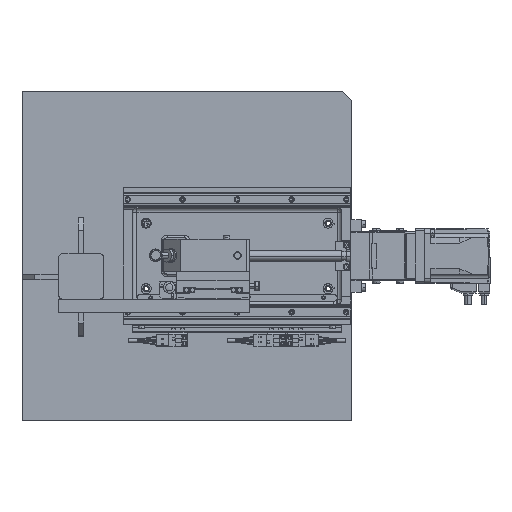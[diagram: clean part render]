
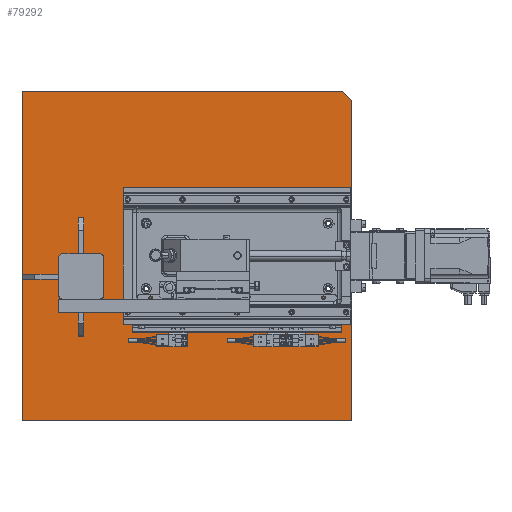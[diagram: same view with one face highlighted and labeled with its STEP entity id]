
A CAD part, top view. The second image highlights one B-rep face of the part: STEP entity #79292.
In plain terms, the highlighted planar face has unit normal (0, 0, 1).
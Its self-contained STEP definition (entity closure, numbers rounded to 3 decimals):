
#87 = CARTESIAN_POINT ( 'NONE',  ( 153., 36., 50. ) ) ;
#344 = LINE ( 'NONE', #31147, #68379 ) ;
#2379 = DIRECTION ( 'NONE',  ( 0., -1., 0. ) ) ;
#2477 = DIRECTION ( 'NONE',  ( 1., 0., 0. ) ) ;
#3659 = CARTESIAN_POINT ( 'NONE',  ( -42., 36., 50. ) ) ;
#5085 = CARTESIAN_POINT ( 'NONE',  ( 155.5, -36., 50. ) ) ;
#5263 = VERTEX_POINT ( 'NONE', #21585 ) ;
#6555 = PLANE ( 'NONE',  #29646 ) ;
#7106 = CARTESIAN_POINT ( 'NONE',  ( 181., -181., 50. ) ) ;
#7363 = EDGE_LOOP ( 'NONE', ( #77438, #64090 ) ) ;
#7503 = VERTEX_POINT ( 'NONE', #3659 ) ;
#7980 = CIRCLE ( 'NONE', #42188, 2.5 ) ;
#8345 = ORIENTED_EDGE ( 'NONE', *, *, #17273, .T. ) ;
#9100 = CARTESIAN_POINT ( 'NONE',  ( -181., -181., 50. ) ) ;
#9322 = CARTESIAN_POINT ( 'NONE',  ( -181., -181., 50. ) ) ;
#9435 = ORIENTED_EDGE ( 'NONE', *, *, #45538, .F. ) ;
#10308 = VERTEX_POINT ( 'NONE', #87 ) ;
#11711 = ORIENTED_EDGE ( 'NONE', *, *, #65922, .T. ) ;
#12072 = EDGE_LOOP ( 'NONE', ( #78706, #56577 ) ) ;
#12260 = VERTEX_POINT ( 'NONE', #50027 ) ;
#13776 = VERTEX_POINT ( 'NONE', #34386 ) ;
#14571 = CARTESIAN_POINT ( 'NONE',  ( 153., -36., 50. ) ) ;
#15999 = VECTOR ( 'NONE', #16908, 1000. ) ;
#16003 = EDGE_LOOP ( 'NONE', ( #83662, #8345, #40900, #11711, #40294 ) ) ;
#16629 = LINE ( 'NONE', #67836, #31009 ) ;
#16785 = AXIS2_PLACEMENT_3D ( 'NONE', #46141, #21062, #33493 ) ;
#16908 = DIRECTION ( 'NONE',  ( 0.707, -0.707, 0. ) ) ;
#17273 = EDGE_CURVE ( 'NONE', #30736, #13776, #23882, .T. ) ;
#17995 = VERTEX_POINT ( 'NONE', #7106 ) ;
#18333 = CIRCLE ( 'NONE', #54836, 2.5 ) ;
#18795 = VERTEX_POINT ( 'NONE', #75558 ) ;
#19387 = LINE ( 'NONE', #9322, #62487 ) ;
#20315 = DIRECTION ( 'NONE',  ( 1., 0., 0. ) ) ;
#20596 = DIRECTION ( 'NONE',  ( 0., 0., 1. ) ) ;
#21062 = DIRECTION ( 'NONE',  ( 0., 0., 1. ) ) ;
#21585 = CARTESIAN_POINT ( 'NONE',  ( -42., -36., 50. ) ) ;
#22696 = EDGE_CURVE ( 'NONE', #30736, #64013, #36564, .T. ) ;
#22791 = CIRCLE ( 'NONE', #16785, 2.5 ) ;
#23051 = VERTEX_POINT ( 'NONE', #14571 ) ;
#23882 = LINE ( 'NONE', #38888, #73386 ) ;
#24942 = DIRECTION ( 'NONE',  ( 0., 0., 1. ) ) ;
#25138 = ORIENTED_EDGE ( 'NONE', *, *, #62455, .F. ) ;
#25661 = DIRECTION ( 'NONE',  ( 1., 0., 0. ) ) ;
#26359 = CARTESIAN_POINT ( 'NONE',  ( 155.5, -36., 50. ) ) ;
#26686 = CARTESIAN_POINT ( 'NONE',  ( 0., 0., 50. ) ) ;
#28505 = CARTESIAN_POINT ( 'NONE',  ( 181., 171., 50. ) ) ;
#29640 = FACE_BOUND ( 'NONE', #55484, .T. ) ;
#29646 = AXIS2_PLACEMENT_3D ( 'NONE', #26686, #20596, #20315 ) ;
#29738 = FACE_OUTER_BOUND ( 'NONE', #16003, .T. ) ;
#30736 = VERTEX_POINT ( 'NONE', #84183 ) ;
#31009 = VECTOR ( 'NONE', #34969, 1000. ) ;
#31147 = CARTESIAN_POINT ( 'NONE',  ( 181., -181., 50. ) ) ;
#31344 = VERTEX_POINT ( 'NONE', #78005 ) ;
#31550 = EDGE_CURVE ( 'NONE', #17995, #64013, #16629, .T. ) ;
#31821 = EDGE_CURVE ( 'NONE', #31344, #23051, #70218, .T. ) ;
#32988 = DIRECTION ( 'NONE',  ( 0., 0., 1. ) ) ;
#33172 = DIRECTION ( 'NONE',  ( 0., 0., 1. ) ) ;
#33493 = DIRECTION ( 'NONE',  ( 1., 0., 0. ) ) ;
#34386 = CARTESIAN_POINT ( 'NONE',  ( -181., 181., 50. ) ) ;
#34844 = CIRCLE ( 'NONE', #65895, 2.5 ) ;
#34969 = DIRECTION ( 'NONE',  ( 0., 1., 0. ) ) ;
#35672 = CARTESIAN_POINT ( 'NONE',  ( 171., 181., 50. ) ) ;
#36071 = DIRECTION ( 'NONE',  ( 0., 0., 1. ) ) ;
#36122 = ORIENTED_EDGE ( 'NONE', *, *, #44476, .F. ) ;
#36564 = LINE ( 'NONE', #35672, #15999 ) ;
#38888 = CARTESIAN_POINT ( 'NONE',  ( -181., 181., 50. ) ) ;
#40294 = ORIENTED_EDGE ( 'NONE', *, *, #31550, .T. ) ;
#40900 = ORIENTED_EDGE ( 'NONE', *, *, #42862, .T. ) ;
#41099 = CARTESIAN_POINT ( 'NONE',  ( -44.5, 36., 50. ) ) ;
#41895 = DIRECTION ( 'NONE',  ( 0., 0., 1. ) ) ;
#42170 = ORIENTED_EDGE ( 'NONE', *, *, #75230, .F. ) ;
#42188 = AXIS2_PLACEMENT_3D ( 'NONE', #85111, #73859, #85384 ) ;
#42680 = CARTESIAN_POINT ( 'NONE',  ( 155.5, 36., 50. ) ) ;
#42862 = EDGE_CURVE ( 'NONE', #13776, #60501, #19387, .T. ) ;
#44476 = EDGE_CURVE ( 'NONE', #10308, #18795, #18333, .T. ) ;
#45538 = EDGE_CURVE ( 'NONE', #51863, #7503, #7980, .T. ) ;
#45652 = DIRECTION ( 'NONE',  ( 1., 0., 0. ) ) ;
#46041 = CIRCLE ( 'NONE', #54679, 2.5 ) ;
#46141 = CARTESIAN_POINT ( 'NONE',  ( -44.5, -36., 50. ) ) ;
#47698 = AXIS2_PLACEMENT_3D ( 'NONE', #26359, #32988, #79131 ) ;
#47724 = DIRECTION ( 'NONE',  ( 0., 0., 1. ) ) ;
#49957 = CIRCLE ( 'NONE', #78054, 2.5 ) ;
#50027 = CARTESIAN_POINT ( 'NONE',  ( -47., -36., 50. ) ) ;
#51835 = EDGE_CURVE ( 'NONE', #5263, #12260, #46041, .T. ) ;
#51863 = VERTEX_POINT ( 'NONE', #82313 ) ;
#54679 = AXIS2_PLACEMENT_3D ( 'NONE', #81461, #41895, #2477 ) ;
#54836 = AXIS2_PLACEMENT_3D ( 'NONE', #42680, #36071, #62017 ) ;
#55484 = EDGE_LOOP ( 'NONE', ( #42170, #9435 ) ) ;
#55895 = EDGE_CURVE ( 'NONE', #23051, #31344, #60593, .T. ) ;
#56546 = FACE_BOUND ( 'NONE', #7363, .T. ) ;
#56577 = ORIENTED_EDGE ( 'NONE', *, *, #55895, .F. ) ;
#57927 = DIRECTION ( 'NONE',  ( -1., 0., 0. ) ) ;
#59689 = FACE_BOUND ( 'NONE', #12072, .T. ) ;
#60501 = VERTEX_POINT ( 'NONE', #9100 ) ;
#60593 = CIRCLE ( 'NONE', #47698, 2.5 ) ;
#62017 = DIRECTION ( 'NONE',  ( 1., 0., 0. ) ) ;
#62455 = EDGE_CURVE ( 'NONE', #18795, #10308, #34844, .T. ) ;
#62487 = VECTOR ( 'NONE', #2379, 1000. ) ;
#64013 = VERTEX_POINT ( 'NONE', #28505 ) ;
#64090 = ORIENTED_EDGE ( 'NONE', *, *, #71717, .F. ) ;
#65895 = AXIS2_PLACEMENT_3D ( 'NONE', #65992, #33172, #79315 ) ;
#65922 = EDGE_CURVE ( 'NONE', #60501, #17995, #344, .T. ) ;
#65992 = CARTESIAN_POINT ( 'NONE',  ( 155.5, 36., 50. ) ) ;
#67348 = DIRECTION ( 'NONE',  ( 1., 0., 0. ) ) ;
#67836 = CARTESIAN_POINT ( 'NONE',  ( 181., 181., 50. ) ) ;
#68379 = VECTOR ( 'NONE', #25661, 1000. ) ;
#69995 = AXIS2_PLACEMENT_3D ( 'NONE', #5085, #24942, #45652 ) ;
#70218 = CIRCLE ( 'NONE', #69995, 2.5 ) ;
#71717 = EDGE_CURVE ( 'NONE', #12260, #5263, #22791, .T. ) ;
#73386 = VECTOR ( 'NONE', #57927, 1000. ) ;
#73859 = DIRECTION ( 'NONE',  ( 0., 0., 1. ) ) ;
#74076 = FACE_BOUND ( 'NONE', #81144, .T. ) ;
#75230 = EDGE_CURVE ( 'NONE', #7503, #51863, #49957, .T. ) ;
#75558 = CARTESIAN_POINT ( 'NONE',  ( 158., 36., 50. ) ) ;
#77438 = ORIENTED_EDGE ( 'NONE', *, *, #51835, .F. ) ;
#78005 = CARTESIAN_POINT ( 'NONE',  ( 158., -36., 50. ) ) ;
#78054 = AXIS2_PLACEMENT_3D ( 'NONE', #41099, #47724, #67348 ) ;
#78706 = ORIENTED_EDGE ( 'NONE', *, *, #31821, .F. ) ;
#79131 = DIRECTION ( 'NONE',  ( 1., 0., 0. ) ) ;
#79292 = ADVANCED_FACE ( '\', ( #29640, #74076, #59689, #56546, #29738 ), #6555, .T. ) ;
#79315 = DIRECTION ( 'NONE',  ( 1., 0., 0. ) ) ;
#81144 = EDGE_LOOP ( 'NONE', ( #25138, #36122 ) ) ;
#81461 = CARTESIAN_POINT ( 'NONE',  ( -44.5, -36., 50. ) ) ;
#82313 = CARTESIAN_POINT ( 'NONE',  ( -47., 36., 50. ) ) ;
#83662 = ORIENTED_EDGE ( 'NONE', *, *, #22696, .F. ) ;
#84183 = CARTESIAN_POINT ( 'NONE',  ( 171., 181., 50. ) ) ;
#85111 = CARTESIAN_POINT ( 'NONE',  ( -44.5, 36., 50. ) ) ;
#85384 = DIRECTION ( 'NONE',  ( 1., 0., 0. ) ) ;
